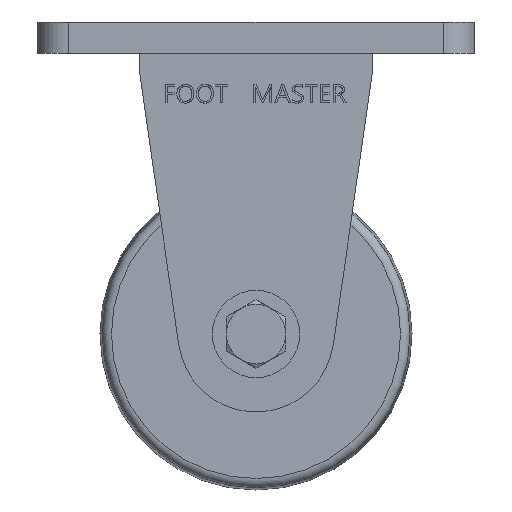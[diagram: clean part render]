
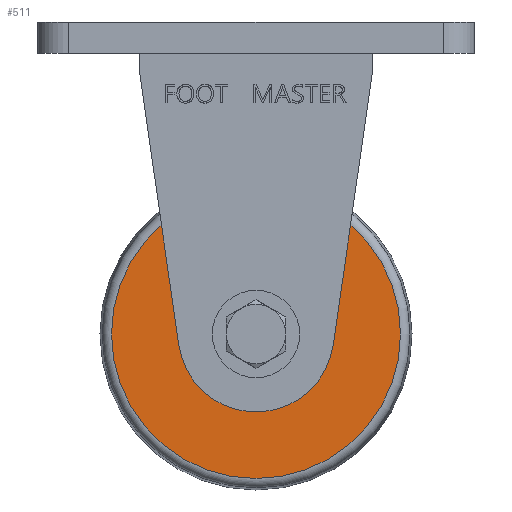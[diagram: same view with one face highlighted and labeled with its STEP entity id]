
A CAD part, front view. The second image highlights one B-rep face of the part: STEP entity #511.
In plain terms, the highlighted planar face has unit normal (0, -1, 0).
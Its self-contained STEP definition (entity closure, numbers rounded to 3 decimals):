
#269=CARTESIAN_POINT('',(-7.,-41.5,-37.5));
#270=VERTEX_POINT('',#269);
#271=CARTESIAN_POINT('',(0.0,-41.5,-37.5));
#272=DIRECTION('',(0.0,-1.0,0.0));
#273=DIRECTION('',(1.0,0.0,0.0));
#274=AXIS2_PLACEMENT_3D('',#271,#272,#273);
#275=CIRCLE('',#274,7.);
#276=EDGE_CURVE('',#270,#270,#275,.T.);
#308=CARTESIAN_POINT('',(46.323,-41.5,-37.5));
#309=VERTEX_POINT('',#308);
#310=CARTESIAN_POINT('',(0.0,-41.5,-37.5));
#311=DIRECTION('',(0.0,-1.0,0.0));
#312=DIRECTION('',(1.0,0.0,0.0));
#313=AXIS2_PLACEMENT_3D('',#310,#311,#312);
#314=CIRCLE('',#313,46.323);
#315=EDGE_CURVE('',#309,#309,#314,.T.);
#500=CARTESIAN_POINT('',(26.661,-41.5,-37.5));
#501=DIRECTION('',(0.0,-1.0,0.0));
#502=DIRECTION('',(0.0,0.0,-1.0));
#503=AXIS2_PLACEMENT_3D('',#500,#501,#502);
#504=PLANE('',#503);
#505=ORIENTED_EDGE('',*,*,#315,.T.);
#506=EDGE_LOOP('',(#505));
#507=FACE_OUTER_BOUND('',#506,.T.);
#508=ORIENTED_EDGE('',*,*,#276,.F.);
#509=EDGE_LOOP('',(#508));
#510=FACE_BOUND('',#509,.T.);
#511=ADVANCED_FACE('',(#507,#510),#504,.T.);
